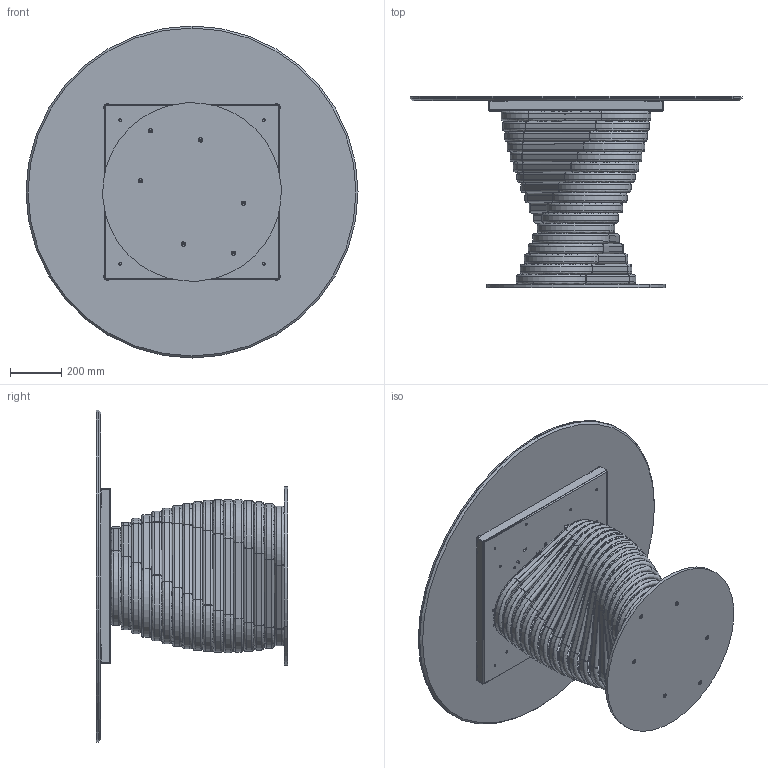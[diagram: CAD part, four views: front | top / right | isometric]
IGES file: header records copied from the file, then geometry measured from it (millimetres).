
Start section: SolidWorks IGES file using analytic representation for surfaces
Global section: file name: Y:\eforma\TECNICO\SOLIDWORKS\E-FORMA\1-TAVOLI\ROTOLO\02 parts\RO05C.IGS; native system: SolidWorks 2022; preprocessor: SolidWorks 2022; author: eforma.tech; date: 240807.150922; units: millimetre
Bounding box: 1300 x 748 x 1300 mm (x, y, z)
Volume: 32933975.2 mm3; surface area: 12240665.5 mm2
Topology: 98 solids, 98 shells, 1638 faces, 4010 edges, 2548 vertices
Faces by surface type: revolution 942, plane 696
